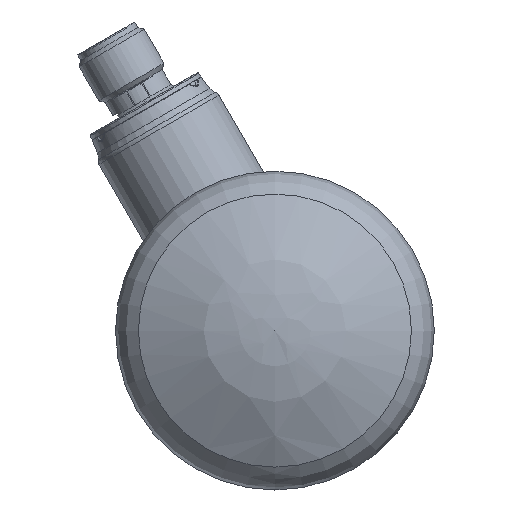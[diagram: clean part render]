
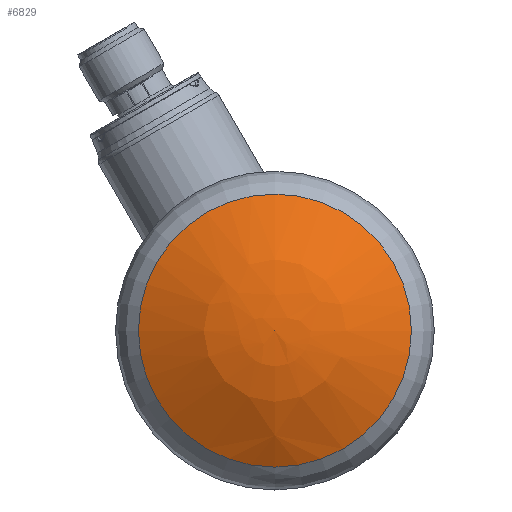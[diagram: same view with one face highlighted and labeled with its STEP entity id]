
A CAD part, front view. The second image highlights one B-rep face of the part: STEP entity #6829.
In plain terms, the highlighted free-form (B-spline) face has degree [2, 2] with [3, 9] control points.
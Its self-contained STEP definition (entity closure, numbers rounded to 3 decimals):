
#198=(
BOUNDED_SURFACE()
B_SPLINE_SURFACE(2,2,((#19547,#19548,#19549,#19550,#19551,#19552,#19553,
#19554,#19555),(#19556,#19557,#19558,#19559,#19560,#19561,#19562,#19563,
#19564),(#19565,#19566,#19567,#19568,#19569,#19570,#19571,#19572,#19573)),
 .UNSPECIFIED.,.F.,.T.,.F.)
B_SPLINE_SURFACE_WITH_KNOTS((3,3),(3,2,2,2,3),(-1.571,-0.996),
(-3.142,-1.571,0.,1.571,3.142),
 .UNSPECIFIED.)
GEOMETRIC_REPRESENTATION_ITEM()
RATIONAL_B_SPLINE_SURFACE(((1.,0.707,1.,0.707,1.,
0.707,1.,0.707,1.),(0.959,0.678,
0.959,0.678,0.959,0.678,
0.959,0.678,0.959),(1.,0.707,
1.,0.707,1.,0.707,1.,0.707,1.)))
REPRESENTATION_ITEM('')
SURFACE()
);
#830=CIRCLE('',#7321,21.75);
#845=CIRCLE('',#7342,40.);
#1212=FACE_OUTER_BOUND('',#1615,.T.);
#1615=EDGE_LOOP('',(#5836,#5837,#5838));
#2991=VERTEX_POINT('',#19483);
#3002=VERTEX_POINT('',#19574);
#3938=EDGE_CURVE('',#2991,#2991,#830,.T.);
#3957=EDGE_CURVE('',#2991,#3002,#845,.T.);
#5836=ORIENTED_EDGE('',*,*,#3938,.F.);
#5837=ORIENTED_EDGE('',*,*,#3957,.T.);
#5838=ORIENTED_EDGE('',*,*,#3957,.F.);
#6829=ADVANCED_FACE('',(#1212),#198,.F.);
#7321=AXIS2_PLACEMENT_3D('',#19485,#8649,#8650);
#7342=AXIS2_PLACEMENT_3D('',#19575,#8695,#8696);
#8649=DIRECTION('center_axis',(0.,1.,0.));
#8650=DIRECTION('ref_axis',(1.,0.,0.));
#8695=DIRECTION('center_axis',(-1.,0.,0.));
#8696=DIRECTION('ref_axis',(0.,0.,-1.));
#19483=CARTESIAN_POINT('',(0.,6.43,-21.75));
#19485=CARTESIAN_POINT('Origin',(0.,6.43,
0.));
#19547=CARTESIAN_POINT('Ctrl Pts',(0.,0.,
0.));
#19548=CARTESIAN_POINT('Ctrl Pts',(0.,0.,
0.));
#19549=CARTESIAN_POINT('Ctrl Pts',(0.,0.,
0.));
#19550=CARTESIAN_POINT('Ctrl Pts',(0.,0.,
0.));
#19551=CARTESIAN_POINT('Ctrl Pts',(0.,0.,
0.));
#19552=CARTESIAN_POINT('Ctrl Pts',(0.,0.,
0.));
#19553=CARTESIAN_POINT('Ctrl Pts',(0.,0.,
0.));
#19554=CARTESIAN_POINT('Ctrl Pts',(0.,0.,
0.));
#19555=CARTESIAN_POINT('Ctrl Pts',(0.,0.,
0.));
#19556=CARTESIAN_POINT('Ctrl Pts',(0.,0.,
-11.825));
#19557=CARTESIAN_POINT('Ctrl Pts',(-11.825,0.,
-11.825));
#19558=CARTESIAN_POINT('Ctrl Pts',(-11.825,0.,
0.));
#19559=CARTESIAN_POINT('Ctrl Pts',(-11.825,0.,
11.825));
#19560=CARTESIAN_POINT('Ctrl Pts',(0.,0.,
11.825));
#19561=CARTESIAN_POINT('Ctrl Pts',(11.825,0.,
11.825));
#19562=CARTESIAN_POINT('Ctrl Pts',(11.825,0.,
0.));
#19563=CARTESIAN_POINT('Ctrl Pts',(11.825,0.,
-11.825));
#19564=CARTESIAN_POINT('Ctrl Pts',(0.,0.,
-11.825));
#19565=CARTESIAN_POINT('Ctrl Pts',(0.,6.43,
-21.75));
#19566=CARTESIAN_POINT('Ctrl Pts',(-21.75,6.43,-21.75));
#19567=CARTESIAN_POINT('Ctrl Pts',(-21.75,6.43,0.));
#19568=CARTESIAN_POINT('Ctrl Pts',(-21.75,6.43,21.75));
#19569=CARTESIAN_POINT('Ctrl Pts',(0.,6.43,
21.75));
#19570=CARTESIAN_POINT('Ctrl Pts',(21.75,6.43,21.75));
#19571=CARTESIAN_POINT('Ctrl Pts',(21.75,6.43,0.));
#19572=CARTESIAN_POINT('Ctrl Pts',(21.75,6.43,-21.75));
#19573=CARTESIAN_POINT('Ctrl Pts',(0.,6.43,
-21.75));
#19574=CARTESIAN_POINT('',(0.,0.,0.));
#19575=CARTESIAN_POINT('Origin',(0.,40.,
0.));
